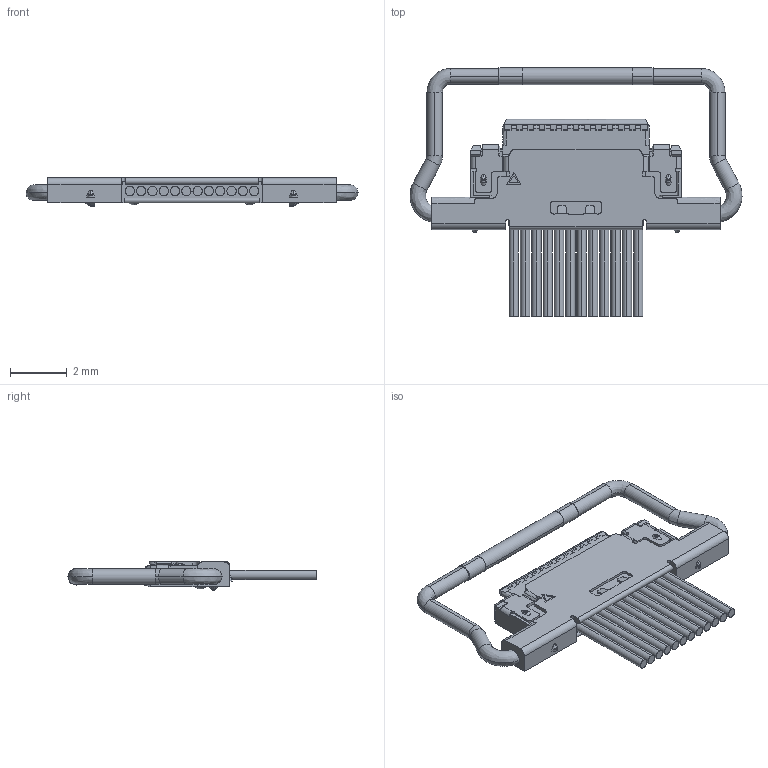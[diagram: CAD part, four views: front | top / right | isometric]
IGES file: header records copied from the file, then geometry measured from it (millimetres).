
Start section: SolidWorks IGES file using analytic representation for surfaces
Global section: file name: Q:\CAB-CA‹¤—L\3Dƒ‚ƒfƒ‹\IGES\12P\20633-x12T-01SC PLUG CABLE ASS'Y IGES R3R4R1 ALL.IGS; native system: SolidWorks 2012; preprocessor: SolidWorks 2012; author: ieng2-008; date: 150402.222027; units: millimetre
Bounding box: 11.75 x 8.78 x 1 mm (x, y, z)
Surface area: 173.5 mm2 (no closed solid volume)
Topology: 0 solids, 0 shells, 543 faces, 4177 edges, 4162 vertices
Faces by surface type: bspline 338, revolution 205
